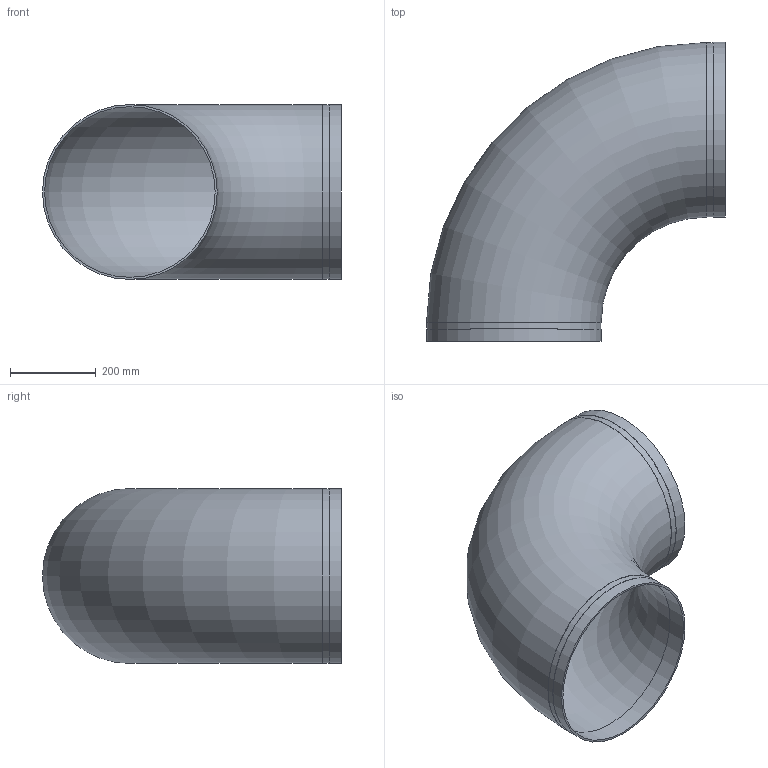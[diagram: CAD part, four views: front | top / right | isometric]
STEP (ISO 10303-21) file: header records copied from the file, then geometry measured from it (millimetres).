
FILE_DESCRIPTION(/* description */ ('VIC 90 DEG ELBOW STYLE 401DX','CAx-IF Rec.Pracs.---Representation and Presentation of Product Manufacturing Information (PMI)---4.0---2014-10-13'),/* implementation_level */ '2;1');
FILE_NAME(/* name */ 'C:\Users\kkamble\AppData\Roaming\Autodesk\ApplicationPlugins\Back Up\Victaulic_SS-StrengThin_Elbow 90 Deg_No 401DX (STG)\Victaulic_SS-StrengThin_Elbow 90 Deg_No 401DX (STG)_16 (400).stp',/* time_stamp */ '2020-08-17T13:28:34+06:00',/* author */ ('cps_temp'),/* organization */ ('Victaulic'),/* preprocessor_version */ 'ST-DEVELOPER v17.2',/* originating_system */ 'Autodesk Inventor 2019',/* authorisation */ '');
FILE_SCHEMA (('AP242_MANAGED_MODEL_BASED_3D_ENGINEERING_MIM_LF { 1 0 10303 442 1 1 4 }'));
Length unit declared in the file: inch
Products named in the file (1): 401DX-16.0
Bounding box: 695.45 x 695.45 x 406.4 mm (x, y, z)
Volume: 4747995.5 mm3; surface area: 2014531.4 mm2
Topology: 1 solids, 1 shells, 14 faces, 30 edges, 22 vertices
Faces by surface type: plane 6, cylinder 6, torus 2
Full cylindrical faces by diameter (mm): 396.85 x2, 405.13 x2, 406.4 x2
Entity records: 556 total; most frequent: DIRECTION 110, CARTESIAN_POINT 84, ORIENTED_EDGE 60, AXIS2_PLACEMENT_3D 52, EDGE_CURVE 30, CIRCLE 24, VERTEX_POINT 22, EDGE_LOOP 20
